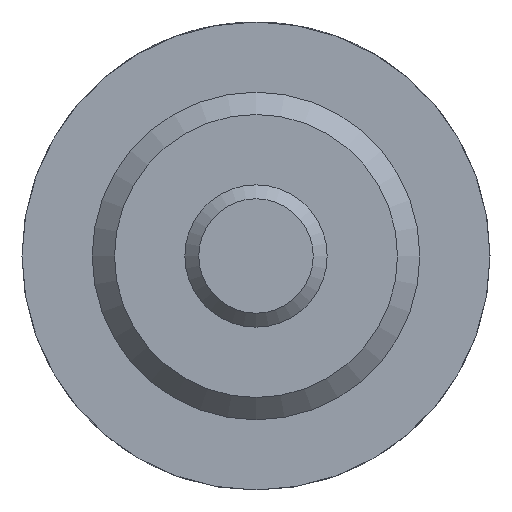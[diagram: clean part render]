
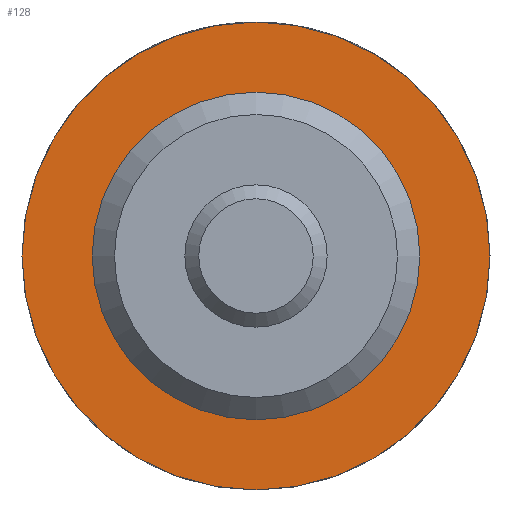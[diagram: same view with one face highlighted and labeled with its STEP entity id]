
A CAD part, left-side view. The second image highlights one B-rep face of the part: STEP entity #128.
In plain terms, the highlighted planar face has unit normal (-1, 0, 0).
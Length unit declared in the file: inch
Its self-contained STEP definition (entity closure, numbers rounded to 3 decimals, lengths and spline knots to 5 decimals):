
#128 = ADVANCED_FACE( '', ( #267, #268 ), #269, .F. );
#267 = FACE_OUTER_BOUND( '', #443, .T. );
#268 = FACE_BOUND( '', #444, .T. );
#269 = PLANE( '', #445 );
#443 = EDGE_LOOP( '', ( #631 ) );
#444 = EDGE_LOOP( '', ( #632 ) );
#445 = AXIS2_PLACEMENT_3D( '', #633, #634, #635 );
#631 = ORIENTED_EDGE( '', *, *, #874, .F. );
#632 = ORIENTED_EDGE( '', *, *, #849, .T. );
#633 = CARTESIAN_POINT( '', ( 0.375, 0.2185, 0. ) );
#634 = DIRECTION( '', ( 1., 0., 0. ) );
#635 = DIRECTION( '', ( 0., 0., -1. ) );
#849 = EDGE_CURVE( '', #948, #948, #949, .T. );
#874 = EDGE_CURVE( '', #990, #990, #991, .T. );
#948 = VERTEX_POINT( '', #1090 );
#949 = CIRCLE( '', #1091, 0.2185 );
#990 = VERTEX_POINT( '', #1202 );
#991 = CIRCLE( '', #1203, 0.3125 );
#1090 = CARTESIAN_POINT( '', ( 0.375, 0., -0.2185 ) );
#1091 = AXIS2_PLACEMENT_3D( '', #1385, #1386, #1387 );
#1202 = CARTESIAN_POINT( '', ( 0.375, 0., -0.3125 ) );
#1203 = AXIS2_PLACEMENT_3D( '', #1425, #1426, #1427 );
#1385 = CARTESIAN_POINT( '', ( 0.375, 0., 0. ) );
#1386 = DIRECTION( '', ( 1., 0., 0. ) );
#1387 = DIRECTION( '', ( 0., 0., -1. ) );
#1425 = CARTESIAN_POINT( '', ( 0.375, 0., 0. ) );
#1426 = DIRECTION( '', ( 1., 0., 0. ) );
#1427 = DIRECTION( '', ( 0., 0., -1. ) );
